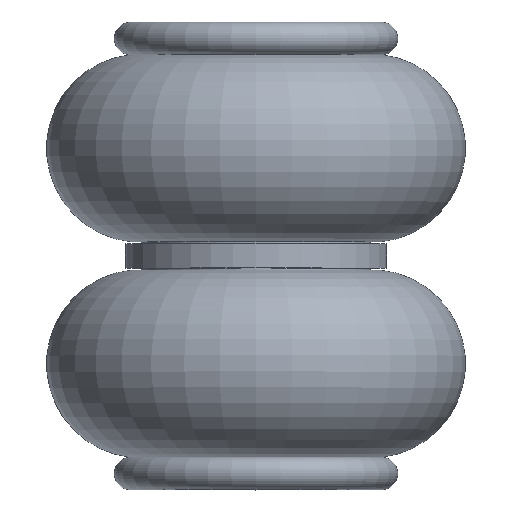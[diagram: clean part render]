
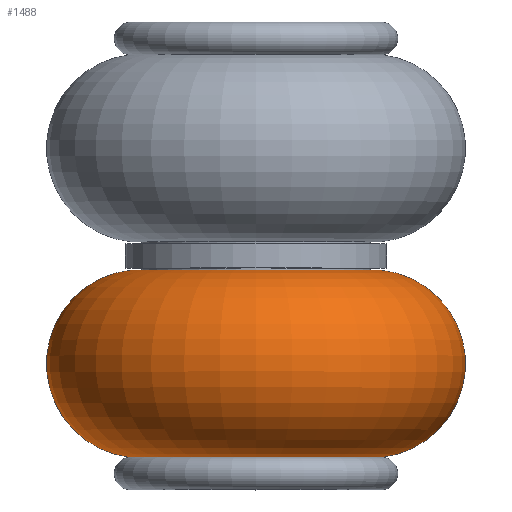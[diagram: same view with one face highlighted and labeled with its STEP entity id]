
A CAD part, top view. The second image highlights one B-rep face of the part: STEP entity #1488.
In plain terms, the highlighted toroidal (fillet/blend) face has major radius 56.8 mm and minor radius 46.25 mm.
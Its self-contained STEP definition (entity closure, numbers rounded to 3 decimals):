
#230=CARTESIAN_POINT('',(0.,-99.,0.));
#231=DIRECTION('',(0.,1.,0.));
#232=DIRECTION('',(-1.,0.,0.));
#233=AXIS2_PLACEMENT_3D('',#230,#231,#232);
#446=CARTESIAN_POINT('',(0.,-7.,0.));
#447=DIRECTION('',(0.,1.,0.));
#448=DIRECTION('',(-1.,0.,0.));
#449=AXIS2_PLACEMENT_3D('',#446,#447,#448);
#454=CARTESIAN_POINT('',(-56.8,-53.,0.));
#455=DIRECTION('',(0.,0.,1.));
#456=DIRECTION('',(-0.104,0.995,0.));
#457=AXIS2_PLACEMENT_3D('',#454,#455,#456);
#462=CARTESIAN_POINT('',(56.8,-53.,0.));
#463=DIRECTION('',(0.,0.,-1.));
#464=DIRECTION('',(0.104,0.995,0.));
#465=AXIS2_PLACEMENT_3D('',#462,#463,#464);
#864=CARTESIAN_POINT('',(-61.602,-7.,0.));
#865=CARTESIAN_POINT('',(61.602,-7.,0.));
#866=VERTEX_POINT('',#864);
#867=VERTEX_POINT('',#865);
#896=CARTESIAN_POINT('',(-61.602,-99.,0.));
#897=VERTEX_POINT('',#896);
#900=CARTESIAN_POINT('',(61.602,-99.,0.));
#901=VERTEX_POINT('',#900);
#1474=CARTESIAN_POINT('',(0.,-53.,0.));
#1475=DIRECTION('',(0.,1.,0.));
#1476=DIRECTION('',(1.,0.,0.));
#1477=AXIS2_PLACEMENT_3D('',#1474,#1475,#1476);
#1478=TOROIDAL_SURFACE('',#1477,56.8,46.25);
#1480=ORIENTED_EDGE('',*,*,#1479,.F.);
#1482=ORIENTED_EDGE('',*,*,#1481,.T.);
#1484=ORIENTED_EDGE('',*,*,#1483,.T.);
#1485=ORIENTED_EDGE('',*,*,#1131,.F.);
#1486=EDGE_LOOP('',(#1480,#1482,#1484,#1485));
#1487=FACE_OUTER_BOUND('',#1486,.F.);
#1488=ADVANCED_FACE('',(#1487),#1478,.T.);
#234=CIRCLE('',#233,61.602);
#450=CIRCLE('',#449,61.602);
#458=CIRCLE('',#457,46.25);
#466=CIRCLE('',#465,46.25);
#1131=EDGE_CURVE('',#897,#901,#234,.T.);
#1479=EDGE_CURVE('',#866,#897,#458,.T.);
#1481=EDGE_CURVE('',#866,#867,#450,.T.);
#1483=EDGE_CURVE('',#867,#901,#466,.T.);
